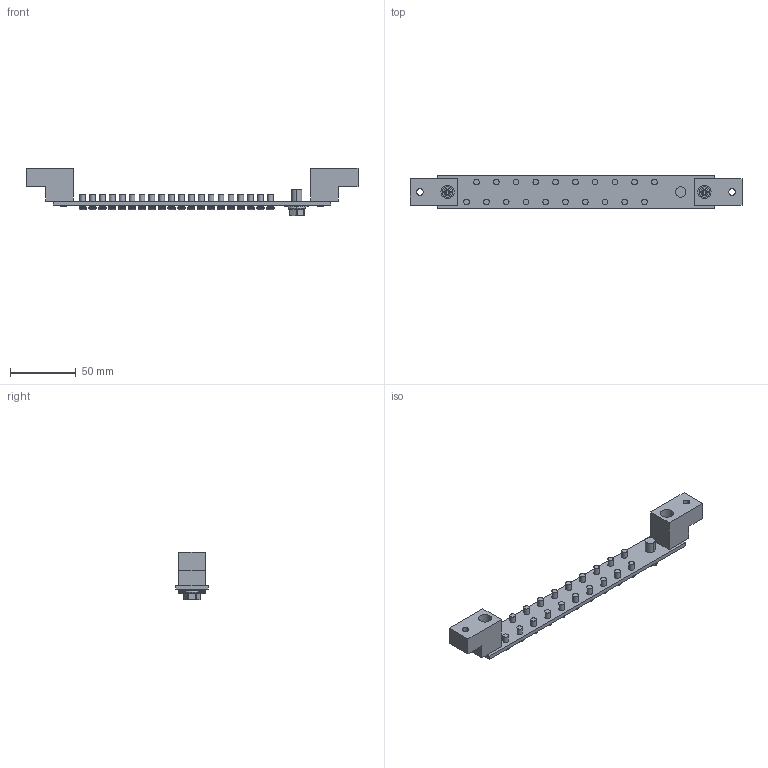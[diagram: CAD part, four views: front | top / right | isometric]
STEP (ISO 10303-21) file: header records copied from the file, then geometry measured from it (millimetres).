
FILE_DESCRIPTION(('Creo Elements/Direct Modeling STEP Export'),'2;1');
FILE_NAME('21N.stp','2025-07-23T16:10:05',(''),(''),'PTC Creo Elements/Direct Modeling STEP processor for AP214 (Solid Model)','PTC Creo Elements/Direct Modeling 19.0 09-May-2014 (C) Parametric Technology GmbH','');
FILE_SCHEMA(('AUTOMOTIVE_DESIGN { 1 0 10303 214 1 1 1 1 }'));
Length unit declared in the file: millimetre
Products named in the file (18): USER_LIBRARY-SAN_ZU_HE_LUO_S_1.prt; quilt.1; quilt.2; quilt.3; M5.1.1.1.1.1.1.1.1.2; a1; SCREW_1_1.PRT; SCREW_1_2.PRT; SCREW_1.ASM; SCREW_0723.stp; M5.1.1.1.1.1.1.1.1.1.1.1.1.1.1; CU; HOLD.1; 21N
Assembly tree (38 placements, depth 4):
  21N
    M5.1.1.1.1.1.1.1.1.2  x10
      quilt.3
      quilt.2
      quilt.1
      USER_LIBRARY-SAN_ZU_HE_LUO_S_1.prt
    HOLD.1  x2
    CU
    M5.1.1.1.1.1.1.1.1.1.1.1.1.1.1  x2
      quilt.3
      quilt.2
      quilt.1
      USER_LIBRARY-SAN_ZU_HE_LUO_S_1.prt
    SCREW_0723.stp
      SCREW_1.ASM
        SCREW_1_2.PRT
        SCREW_1_1.PRT
    a1
      M5.1.1.1.1.1.1.1.1.2  x10
        quilt.3
        quilt.2
        quilt.1
        USER_LIBRARY-SAN_ZU_HE_LUO_S_1.prt
Bounding box: 252 x 25 x 36.2 mm (x, y, z)
Volume: 45430.5 mm3; surface area: 31749.3 mm2
Topology: 71 solids, 71 shells, 1104 faces, 2730 edges, 1798 vertices
Faces by surface type: plane 602, cylinder 344, torus 92, bspline 66
Entity records: 10863 total; most frequent: CARTESIAN_POINT 4668, ORIENTED_EDGE 1056, DIRECTION 1012, EDGE_CURVE 528, AXIS2_PLACEMENT_3D 378, VERTEX_POINT 350, EDGE_LOOP 270, VECTOR 256
